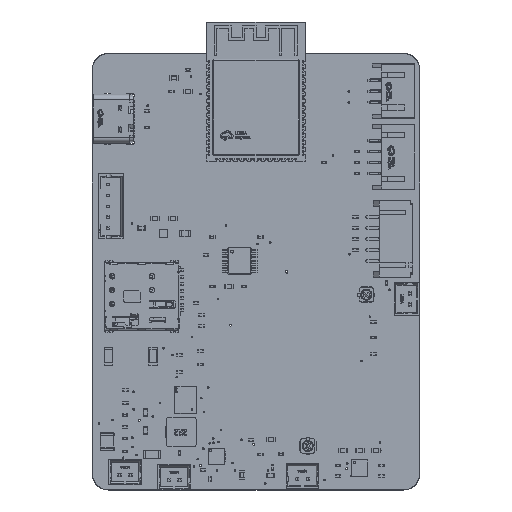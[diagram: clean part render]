
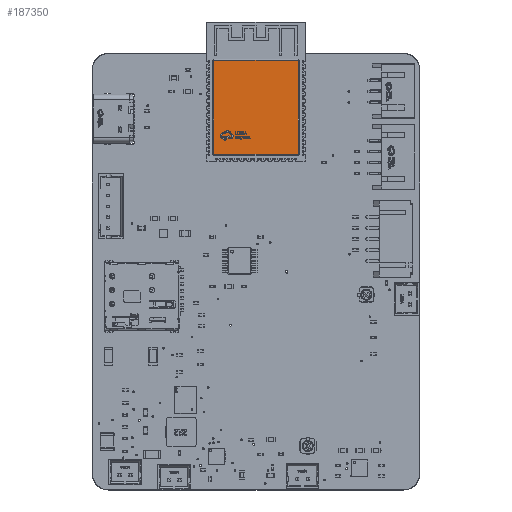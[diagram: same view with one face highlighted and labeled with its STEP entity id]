
A CAD part, top view. The second image highlights one B-rep face of the part: STEP entity #187350.
In plain terms, the highlighted planar face has unit normal (0, 0, 1).
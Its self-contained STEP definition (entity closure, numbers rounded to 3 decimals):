
#10282=FACE_OUTER_BOUND('',#19236,.T.);
#19236=EDGE_LOOP('',(#126261,#126262,#126263,#126264));
#32946=LINE('',#258668,#54464);
#32947=LINE('',#258670,#54465);
#32948=LINE('',#258672,#54466);
#32949=LINE('',#258673,#54467);
#54464=VECTOR('',#210603,1.);
#54465=VECTOR('',#210604,1.);
#54466=VECTOR('',#210605,1.);
#54467=VECTOR('',#210606,1.);
#75936=VERTEX_POINT('',#258666);
#75937=VERTEX_POINT('',#258667);
#75938=VERTEX_POINT('',#258669);
#75939=VERTEX_POINT('',#258671);
#97425=EDGE_CURVE('',#75936,#75937,#32946,.T.);
#97426=EDGE_CURVE('',#75937,#75938,#32947,.T.);
#97427=EDGE_CURVE('',#75938,#75939,#32948,.T.);
#97428=EDGE_CURVE('',#75939,#75936,#32949,.T.);
#126261=ORIENTED_EDGE('',*,*,#97425,.T.);
#126262=ORIENTED_EDGE('',*,*,#97426,.T.);
#126263=ORIENTED_EDGE('',*,*,#97427,.T.);
#126264=ORIENTED_EDGE('',*,*,#97428,.T.);
#174022=PLANE('',#196852);
#187350=ADVANCED_FACE('',(#10282),#174022,.F.);
#196852=AXIS2_PLACEMENT_3D('',#258665,#210601,#210602);
#210601=DIRECTION('center_axis',(0.,0.,-1.));
#210602=DIRECTION('ref_axis',(-1.,0.,0.));
#210603=DIRECTION('',(0.,-1.,0.));
#210604=DIRECTION('',(1.,0.,0.));
#210605=DIRECTION('',(0.,1.,0.));
#210606=DIRECTION('',(-1.,0.,0.));
#258665=CARTESIAN_POINT('Origin',(0.,0.,3.1));
#258666=CARTESIAN_POINT('',(-7.7,5.7,3.1));
#258667=CARTESIAN_POINT('',(-7.7,-11.5,3.1));
#258668=CARTESIAN_POINT('',(-7.7,0.,3.1));
#258669=CARTESIAN_POINT('',(7.7,-11.5,3.1));
#258670=CARTESIAN_POINT('',(0.,-11.5,3.1));
#258671=CARTESIAN_POINT('',(7.7,5.7,3.1));
#258672=CARTESIAN_POINT('',(7.7,0.,3.1));
#258673=CARTESIAN_POINT('',(0.,5.7,3.1));
